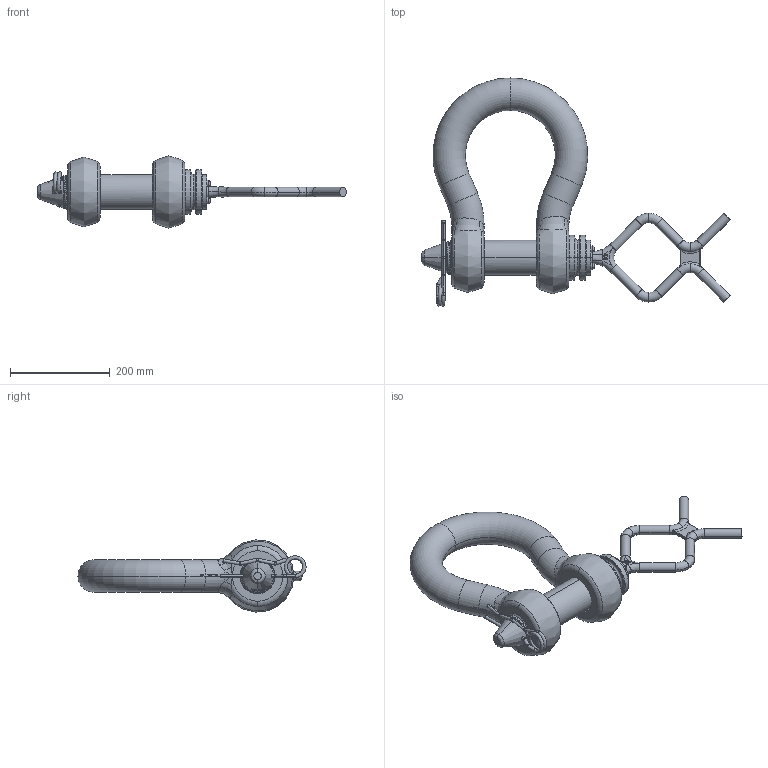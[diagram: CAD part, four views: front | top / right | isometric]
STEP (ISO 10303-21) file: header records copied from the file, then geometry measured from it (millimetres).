
FILE_DESCRIPTION(('STEP AP203'),'1');
FILE_NAME('poghbb65rovrltf.stp','2025-06-13T10:18:57',('TraceParts'),('TraceParts S.A.'),'Spatial InterOp 3D',' ',' ');
FILE_SCHEMA(('CONFIG_CONTROL_DESIGN'));
Length unit declared in the file: millimetre
Products named in the file (1): 1
Bounding box: 618.25 x 457 x 144.77 mm (x, y, z)
Volume: 4995822.8 mm3; surface area: 416527.6 mm2
Topology: 12 solids, 12 shells, 1042 faces, 2759 edges, 1764 vertices
Faces by surface type: plane 374, bspline 299, cylinder 195, torus 114, cone 60
Entity records: 76097 total; most frequent: CARTESIAN_POINT 52038, ORIENTED_EDGE 5454, DIRECTION 4397, EDGE_CURVE 2727, VERTEX_POINT 1764, AXIS2_PLACEMENT_3D 1657, EDGE_LOOP 1123, LINE 1083
